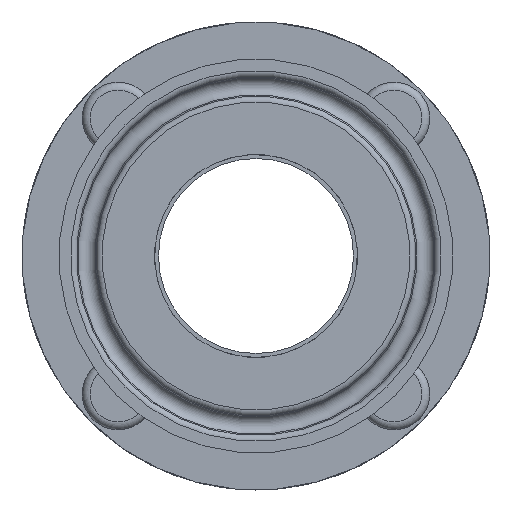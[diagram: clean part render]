
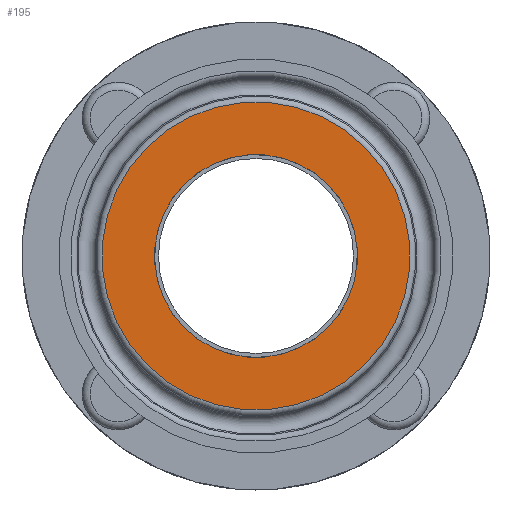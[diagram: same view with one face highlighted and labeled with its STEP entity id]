
A CAD part, front view. The second image highlights one B-rep face of the part: STEP entity #195.
In plain terms, the highlighted planar face has unit normal (0, -1, 0).
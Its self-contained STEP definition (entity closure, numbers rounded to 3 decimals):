
#195=ADVANCED_FACE('',(#338,#339),#285,.F.);
#285=PLANE('',#1153);
#338=FACE_BOUND('',#490,.T.);
#339=FACE_BOUND('',#491,.T.);
#490=EDGE_LOOP('',(#690));
#491=EDGE_LOOP('',(#691));
#690=ORIENTED_EDGE('',*,*,#959,.T.);
#691=ORIENTED_EDGE('',*,*,#960,.F.);
#859=VERTEX_POINT('',#1781);
#860=VERTEX_POINT('',#1783);
#959=EDGE_CURVE('',#859,#859,#1043,.T.);
#960=EDGE_CURVE('',#860,#860,#1044,.T.);
#1043=CIRCLE('',#1151,19.747);
#1044=CIRCLE('',#1152,13.);
#1151=AXIS2_PLACEMENT_3D('',#1780,#1388,#1389);
#1152=AXIS2_PLACEMENT_3D('',#1782,#1390,#1391);
#1153=AXIS2_PLACEMENT_3D('',#1784,#1392,#1393);
#1388=DIRECTION('',(0.,-1.,0.));
#1389=DIRECTION('',(-0.707,0.,0.707));
#1390=DIRECTION('',(0.,-1.,0.));
#1391=DIRECTION('',(0.707,0.,-0.707));
#1392=DIRECTION('',(0.,1.,0.));
#1393=DIRECTION('',(-0.707,0.,0.707));
#1780=CARTESIAN_POINT('',(0.,-79.8,0.));
#1781=CARTESIAN_POINT('',(-13.963,-79.8,13.963));
#1782=CARTESIAN_POINT('',(0.,-79.8,0.));
#1783=CARTESIAN_POINT('',(9.192,-79.8,-9.192));
#1784=CARTESIAN_POINT('',(0.,-79.8,0.));
